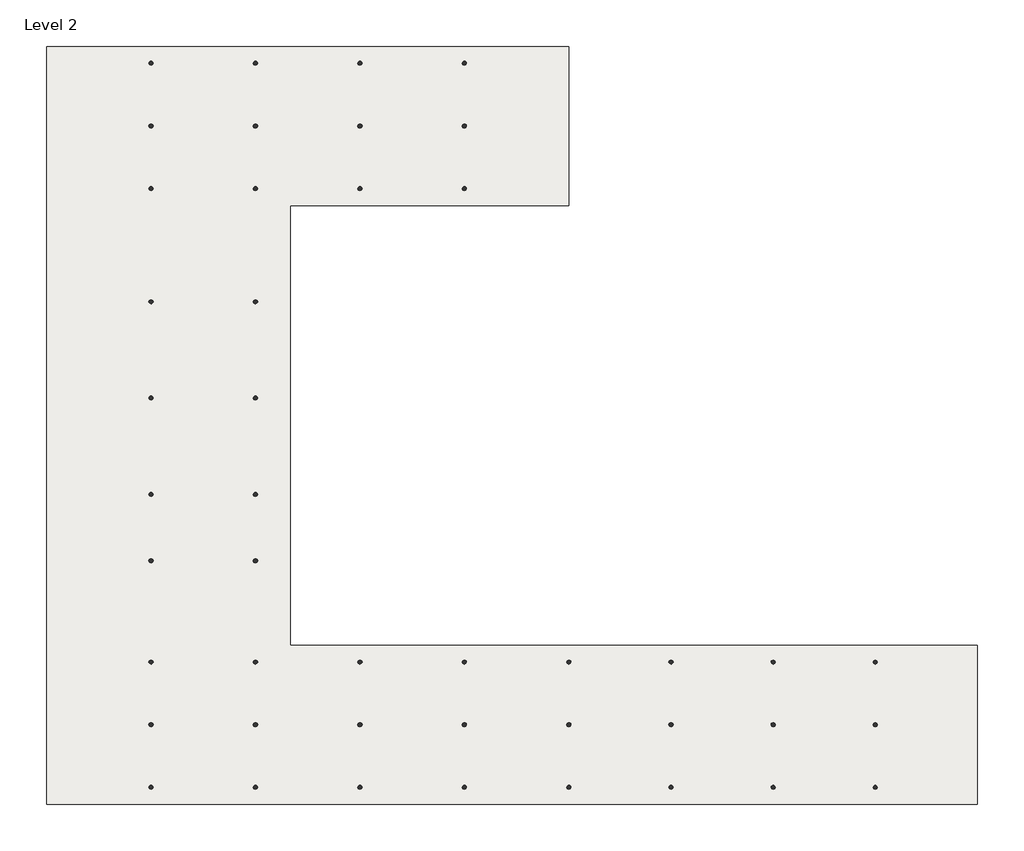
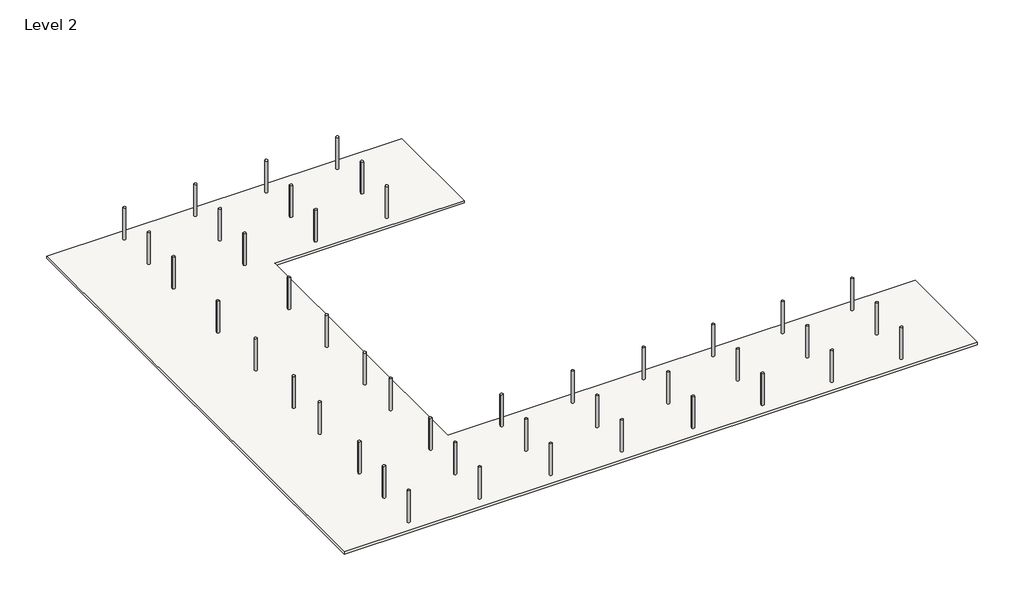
# One storey: 44 columns, 1 slab.
"""IFC4 building model written with IfcOpenShell, lengths in millimetres."""

from ifc_helpers import new_model, si_unit, frame, origin, place, context, project, spatial, polyline, outline, extrude, transform, mapped, element, save
from components import m_concrete_round_column_300mm_86e73f63

model = new_model("IFC4")

# Units and contexts
model_context = context("Model", 3, world=origin())
ifc_project = project(units=[si_unit("LENGTHUNIT", "METRE", prefix="MILLI")], contexts=[model_context])

# Site, building, storey
site = spatial("IfcSite", under=ifc_project)
building = spatial("IfcBuilding", under=site)
storey = spatial("IfcBuildingStorey", under=building, Name="Level 2", Elevation=4000.0)

# Columns
placement = place(None, origin())
m_concrete_round_column_300mm_shape = m_concrete_round_column_300mm_86e73f63(model_context)
element("IfcColumn", 1, ObjectType="M_Concrete-Round-Column : 300mm", at=placement, inside=storey, context=model_context, shape_type="MappedRepresentation", body=[
    mapped(m_concrete_round_column_300mm_shape, transform((-2539.0909489, 25116.7095931, 0.0), x_axis=(-1.0, 0.0, 0.0), y_axis=(0.0, -1.0, 0.0), z_axis=(0.0, 0.0, 1.0))),
])
element("IfcColumn", 2, ObjectType="M_Concrete-Round-Column : 300mm", at=placement, inside=storey, context=model_context, shape_type="MappedRepresentation", body=[
    mapped(m_concrete_round_column_300mm_shape, transform((-2539.0909489, 12506.7392059, 0.0), x_axis=(-1.0, 0.0, 0.0), y_axis=(0.0, -1.0, 0.0), z_axis=(0.0, 0.0, 1.0))),
])
element("IfcColumn", 3, ObjectType="M_Concrete-Round-Column : 300mm", at=placement, inside=storey, context=model_context, shape_type="MappedRepresentation", body=[
    mapped(m_concrete_round_column_300mm_shape, transform((-2539.0909489, 5598.6392059, 0.0), x_axis=(-1.0, 0.0, 0.0), y_axis=(0.0, -1.0, 0.0), z_axis=(0.0, 0.0, 1.0))),
])
element("IfcColumn", 4, ObjectType="M_Concrete-Round-Column : 300mm", at=placement, inside=storey, context=model_context, shape_type="MappedRepresentation", body=[
    mapped(m_concrete_round_column_300mm_shape, transform((-2539.0909489, -1309.4607941, 0.0), x_axis=(-1.0, 0.0, 0.0), y_axis=(0.0, -1.0, 0.0), z_axis=(0.0, 0.0, 1.0))),
])
element("IfcColumn", 5, ObjectType="M_Concrete-Round-Column : 300mm", at=placement, inside=storey, context=model_context, shape_type="MappedRepresentation", body=[
    mapped(m_concrete_round_column_300mm_shape, transform((-2539.0909489, -6063.8611817, 0.0), x_axis=(-1.0, 0.0, 0.0), y_axis=(0.0, -1.0, 0.0), z_axis=(0.0, 0.0, 1.0))),
])
element("IfcColumn", 6, ObjectType="M_Concrete-Round-Column : 300mm", at=placement, inside=storey, context=model_context, shape_type="MappedRepresentation", body=[
    mapped(m_concrete_round_column_300mm_shape, transform((-2539.0909489, -17821.5310875, 0.0), x_axis=(-1.0, 0.0, 0.0), y_axis=(0.0, -1.0, 0.0), z_axis=(0.0, 0.0, 1.0))),
])
element("IfcColumn", 7, ObjectType="M_Concrete-Round-Column : 300mm", at=placement, inside=storey, context=model_context, shape_type="MappedRepresentation", body=[
    mapped(m_concrete_round_column_300mm_shape, transform((-2539.0909489, 29618.5799804, 0.0), x_axis=(-1.0, 0.0, 0.0), y_axis=(0.0, -1.0, 0.0), z_axis=(0.0, 0.0, 1.0))),
])
element("IfcColumn", 8, ObjectType="M_Concrete-Round-Column : 300mm", at=placement, inside=storey, context=model_context, shape_type="MappedRepresentation", body=[
    mapped(m_concrete_round_column_300mm_shape, transform((-2539.0909489, 20614.8392059, 0.0), x_axis=(-1.0, 0.0, 0.0), y_axis=(0.0, -1.0, 0.0), z_axis=(0.0, 0.0, 1.0))),
])
element("IfcColumn", 9, ObjectType="M_Concrete-Round-Column : 300mm", at=placement, inside=storey, context=model_context, shape_type="MappedRepresentation", body=[
    mapped(m_concrete_round_column_300mm_shape, transform((-2539.0909489, -13332.3615692, 0.0), x_axis=(-1.0, 0.0, 0.0), y_axis=(0.0, -1.0, 0.0), z_axis=(0.0, 0.0, 1.0))),
])
element("IfcColumn", 10, ObjectType="M_Concrete-Round-Column : 300mm", at=placement, inside=storey, context=model_context, shape_type="MappedRepresentation", body=[
    mapped(m_concrete_round_column_300mm_shape, transform((-2539.0909489, -22310.7006057, 0.0), x_axis=(-1.0, 0.0, 0.0), y_axis=(0.0, -1.0, 0.0), z_axis=(0.0, 0.0, 1.0))),
])
element("IfcColumn", 11, ObjectType="M_Concrete-Round-Column : 300mm", at=placement, inside=storey, context=model_context, shape_type="MappedRepresentation", body=[
    mapped(m_concrete_round_column_300mm_shape, transform((4948.6567657, 25116.7095931, 0.0), x_axis=(-1.0, 0.0, 0.0), y_axis=(0.0, -1.0, 0.0), z_axis=(0.0, 0.0, 1.0))),
])
element("IfcColumn", 12, ObjectType="M_Concrete-Round-Column : 300mm", at=placement, inside=storey, context=model_context, shape_type="MappedRepresentation", body=[
    mapped(m_concrete_round_column_300mm_shape, transform((4948.6567657, 12506.7392059, 0.0), x_axis=(-1.0, 0.0, 0.0), y_axis=(0.0, -1.0, 0.0), z_axis=(0.0, 0.0, 1.0))),
])
element("IfcColumn", 13, ObjectType="M_Concrete-Round-Column : 300mm", at=placement, inside=storey, context=model_context, shape_type="MappedRepresentation", body=[
    mapped(m_concrete_round_column_300mm_shape, transform((4948.6567657, 5598.6392059, 0.0), x_axis=(-1.0, 0.0, 0.0), y_axis=(0.0, -1.0, 0.0), z_axis=(0.0, 0.0, 1.0))),
])
element("IfcColumn", 14, ObjectType="M_Concrete-Round-Column : 300mm", at=placement, inside=storey, context=model_context, shape_type="MappedRepresentation", body=[
    mapped(m_concrete_round_column_300mm_shape, transform((4948.6567657, -1309.4607941, 0.0), x_axis=(-1.0, 0.0, 0.0), y_axis=(0.0, -1.0, 0.0), z_axis=(0.0, 0.0, 1.0))),
])
element("IfcColumn", 15, ObjectType="M_Concrete-Round-Column : 300mm", at=placement, inside=storey, context=model_context, shape_type="MappedRepresentation", body=[
    mapped(m_concrete_round_column_300mm_shape, transform((4948.6567657, -6063.8611817, 0.0), x_axis=(-1.0, 0.0, 0.0), y_axis=(0.0, -1.0, 0.0), z_axis=(0.0, 0.0, 1.0))),
])
element("IfcColumn", 16, ObjectType="M_Concrete-Round-Column : 300mm", at=placement, inside=storey, context=model_context, shape_type="MappedRepresentation", body=[
    mapped(m_concrete_round_column_300mm_shape, transform((4948.6567657, -17821.5310875, 0.0), x_axis=(-1.0, 0.0, 0.0), y_axis=(0.0, -1.0, 0.0), z_axis=(0.0, 0.0, 1.0))),
])
element("IfcColumn", 17, ObjectType="M_Concrete-Round-Column : 300mm", at=placement, inside=storey, context=model_context, shape_type="MappedRepresentation", body=[
    mapped(m_concrete_round_column_300mm_shape, transform((4948.6567657, 29618.5799804, 0.0), x_axis=(-1.0, 0.0, 0.0), y_axis=(0.0, -1.0, 0.0), z_axis=(0.0, 0.0, 1.0))),
])
element("IfcColumn", 18, ObjectType="M_Concrete-Round-Column : 300mm", at=placement, inside=storey, context=model_context, shape_type="MappedRepresentation", body=[
    mapped(m_concrete_round_column_300mm_shape, transform((4948.6567657, 20614.8392059, 0.0), x_axis=(-1.0, 0.0, 0.0), y_axis=(0.0, -1.0, 0.0), z_axis=(0.0, 0.0, 1.0))),
])
element("IfcColumn", 19, ObjectType="M_Concrete-Round-Column : 300mm", at=placement, inside=storey, context=model_context, shape_type="MappedRepresentation", body=[
    mapped(m_concrete_round_column_300mm_shape, transform((4948.6567657, -13332.3615692, 0.0), x_axis=(-1.0, 0.0, 0.0), y_axis=(0.0, -1.0, 0.0), z_axis=(0.0, 0.0, 1.0))),
])
element("IfcColumn", 20, ObjectType="M_Concrete-Round-Column : 300mm", at=placement, inside=storey, context=model_context, shape_type="MappedRepresentation", body=[
    mapped(m_concrete_round_column_300mm_shape, transform((4948.6567657, -22310.7006057, 0.0), x_axis=(-1.0, 0.0, 0.0), y_axis=(0.0, -1.0, 0.0), z_axis=(0.0, 0.0, 1.0))),
])
element("IfcColumn", 21, ObjectType="M_Concrete-Round-Column : 300mm", at=placement, inside=storey, context=model_context, shape_type="MappedRepresentation", body=[
    mapped(m_concrete_round_column_300mm_shape, transform((12436.4044804, 25116.7095931, 0.0), x_axis=(-1.0, 0.0, 0.0), y_axis=(0.0, -1.0, 0.0), z_axis=(0.0, 0.0, 1.0))),
])
element("IfcColumn", 22, ObjectType="M_Concrete-Round-Column : 300mm", at=placement, inside=storey, context=model_context, shape_type="MappedRepresentation", body=[
    mapped(m_concrete_round_column_300mm_shape, transform((12436.4044804, -17821.5310875, 0.0), x_axis=(-1.0, 0.0, 0.0), y_axis=(0.0, -1.0, 0.0), z_axis=(0.0, 0.0, 1.0))),
])
element("IfcColumn", 23, ObjectType="M_Concrete-Round-Column : 300mm", at=placement, inside=storey, context=model_context, shape_type="MappedRepresentation", body=[
    mapped(m_concrete_round_column_300mm_shape, transform((12436.4044804, 29618.5799804, 0.0), x_axis=(-1.0, 0.0, 0.0), y_axis=(0.0, -1.0, 0.0), z_axis=(0.0, 0.0, 1.0))),
])
element("IfcColumn", 24, ObjectType="M_Concrete-Round-Column : 300mm", at=placement, inside=storey, context=model_context, shape_type="MappedRepresentation", body=[
    mapped(m_concrete_round_column_300mm_shape, transform((12436.4044804, 20614.8392059, 0.0), x_axis=(-1.0, 0.0, 0.0), y_axis=(0.0, -1.0, 0.0), z_axis=(0.0, 0.0, 1.0))),
])
element("IfcColumn", 25, ObjectType="M_Concrete-Round-Column : 300mm", at=placement, inside=storey, context=model_context, shape_type="MappedRepresentation", body=[
    mapped(m_concrete_round_column_300mm_shape, transform((12436.4044804, -13332.3615692, 0.0), x_axis=(-1.0, 0.0, 0.0), y_axis=(0.0, -1.0, 0.0), z_axis=(0.0, 0.0, 1.0))),
])
element("IfcColumn", 26, ObjectType="M_Concrete-Round-Column : 300mm", at=placement, inside=storey, context=model_context, shape_type="MappedRepresentation", body=[
    mapped(m_concrete_round_column_300mm_shape, transform((12436.4044804, -22310.7006057, 0.0), x_axis=(-1.0, 0.0, 0.0), y_axis=(0.0, -1.0, 0.0), z_axis=(0.0, 0.0, 1.0))),
])
element("IfcColumn", 27, ObjectType="M_Concrete-Round-Column : 300mm", at=placement, inside=storey, context=model_context, shape_type="MappedRepresentation", body=[
    mapped(m_concrete_round_column_300mm_shape, transform((19924.152195, 25116.7095931, 0.0), x_axis=(-1.0, 0.0, 0.0), y_axis=(0.0, -1.0, 0.0), z_axis=(0.0, 0.0, 1.0))),
])
element("IfcColumn", 28, ObjectType="M_Concrete-Round-Column : 300mm", at=placement, inside=storey, context=model_context, shape_type="MappedRepresentation", body=[
    mapped(m_concrete_round_column_300mm_shape, transform((19924.152195, -17821.5310875, 0.0), x_axis=(-1.0, 0.0, 0.0), y_axis=(0.0, -1.0, 0.0), z_axis=(0.0, 0.0, 1.0))),
])
element("IfcColumn", 29, ObjectType="M_Concrete-Round-Column : 300mm", at=placement, inside=storey, context=model_context, shape_type="MappedRepresentation", body=[
    mapped(m_concrete_round_column_300mm_shape, transform((19924.152195, 29618.5799804, 0.0), x_axis=(-1.0, 0.0, 0.0), y_axis=(0.0, -1.0, 0.0), z_axis=(0.0, 0.0, 1.0))),
])
element("IfcColumn", 30, ObjectType="M_Concrete-Round-Column : 300mm", at=placement, inside=storey, context=model_context, shape_type="MappedRepresentation", body=[
    mapped(m_concrete_round_column_300mm_shape, transform((19924.152195, 20614.8392059, 0.0), x_axis=(-1.0, 0.0, 0.0), y_axis=(0.0, -1.0, 0.0), z_axis=(0.0, 0.0, 1.0))),
])
element("IfcColumn", 31, ObjectType="M_Concrete-Round-Column : 300mm", at=placement, inside=storey, context=model_context, shape_type="MappedRepresentation", body=[
    mapped(m_concrete_round_column_300mm_shape, transform((19924.152195, -13332.3615692, 0.0), x_axis=(-1.0, 0.0, 0.0), y_axis=(0.0, -1.0, 0.0), z_axis=(0.0, 0.0, 1.0))),
])
element("IfcColumn", 32, ObjectType="M_Concrete-Round-Column : 300mm", at=placement, inside=storey, context=model_context, shape_type="MappedRepresentation", body=[
    mapped(m_concrete_round_column_300mm_shape, transform((19924.152195, -22310.7006057, 0.0), x_axis=(-1.0, 0.0, 0.0), y_axis=(0.0, -1.0, 0.0), z_axis=(0.0, 0.0, 1.0))),
])
element("IfcColumn", 33, ObjectType="M_Concrete-Round-Column : 300mm", at=placement, inside=storey, context=model_context, shape_type="MappedRepresentation", body=[
    mapped(m_concrete_round_column_300mm_shape, transform((27411.8999097, -17821.5310875, 0.0), x_axis=(-1.0, 0.0, 0.0), y_axis=(0.0, -1.0, 0.0), z_axis=(0.0, 0.0, 1.0))),
])
element("IfcColumn", 34, ObjectType="M_Concrete-Round-Column : 300mm", at=placement, inside=storey, context=model_context, shape_type="MappedRepresentation", body=[
    mapped(m_concrete_round_column_300mm_shape, transform((27411.8999097, -13332.3615692, 0.0), x_axis=(-1.0, 0.0, 0.0), y_axis=(0.0, -1.0, 0.0), z_axis=(0.0, 0.0, 1.0))),
])
element("IfcColumn", 35, ObjectType="M_Concrete-Round-Column : 300mm", at=placement, inside=storey, context=model_context, shape_type="MappedRepresentation", body=[
    mapped(m_concrete_round_column_300mm_shape, transform((27411.8999097, -22310.7006057, 0.0), x_axis=(-1.0, 0.0, 0.0), y_axis=(0.0, -1.0, 0.0), z_axis=(0.0, 0.0, 1.0))),
])
element("IfcColumn", 36, ObjectType="M_Concrete-Round-Column : 300mm", at=placement, inside=storey, context=model_context, shape_type="MappedRepresentation", body=[
    mapped(m_concrete_round_column_300mm_shape, transform((34733.7042668, -17821.5310875, 0.0), x_axis=(-1.0, 0.0, 0.0), y_axis=(0.0, -1.0, 0.0), z_axis=(0.0, 0.0, 1.0))),
])
element("IfcColumn", 37, ObjectType="M_Concrete-Round-Column : 300mm", at=placement, inside=storey, context=model_context, shape_type="MappedRepresentation", body=[
    mapped(m_concrete_round_column_300mm_shape, transform((34733.7042668, -13332.3615692, 0.0), x_axis=(-1.0, 0.0, 0.0), y_axis=(0.0, -1.0, 0.0), z_axis=(0.0, 0.0, 1.0))),
])
element("IfcColumn", 38, ObjectType="M_Concrete-Round-Column : 300mm", at=placement, inside=storey, context=model_context, shape_type="MappedRepresentation", body=[
    mapped(m_concrete_round_column_300mm_shape, transform((34733.7042668, -22310.7006057, 0.0), x_axis=(-1.0, 0.0, 0.0), y_axis=(0.0, -1.0, 0.0), z_axis=(0.0, 0.0, 1.0))),
])
element("IfcColumn", 39, ObjectType="M_Concrete-Round-Column : 300mm", at=placement, inside=storey, context=model_context, shape_type="MappedRepresentation", body=[
    mapped(m_concrete_round_column_300mm_shape, transform((42055.5086239, -17821.5310875, 0.0), x_axis=(-1.0, 0.0, 0.0), y_axis=(0.0, -1.0, 0.0), z_axis=(0.0, 0.0, 1.0))),
])
element("IfcColumn", 40, ObjectType="M_Concrete-Round-Column : 300mm", at=placement, inside=storey, context=model_context, shape_type="MappedRepresentation", body=[
    mapped(m_concrete_round_column_300mm_shape, transform((42055.5086239, -13332.3615692, 0.0), x_axis=(-1.0, 0.0, 0.0), y_axis=(0.0, -1.0, 0.0), z_axis=(0.0, 0.0, 1.0))),
])
element("IfcColumn", 41, ObjectType="M_Concrete-Round-Column : 300mm", at=placement, inside=storey, context=model_context, shape_type="MappedRepresentation", body=[
    mapped(m_concrete_round_column_300mm_shape, transform((42055.5086239, -22310.7006057, 0.0), x_axis=(-1.0, 0.0, 0.0), y_axis=(0.0, -1.0, 0.0), z_axis=(0.0, 0.0, 1.0))),
])
element("IfcColumn", 42, ObjectType="M_Concrete-Round-Column : 300mm", at=placement, inside=storey, context=model_context, shape_type="MappedRepresentation", body=[
    mapped(m_concrete_round_column_300mm_shape, transform((49377.3129811, -17821.5310875, 0.0), x_axis=(-1.0, 0.0, 0.0), y_axis=(0.0, -1.0, 0.0), z_axis=(0.0, 0.0, 1.0))),
])
element("IfcColumn", 43, ObjectType="M_Concrete-Round-Column : 300mm", at=placement, inside=storey, context=model_context, shape_type="MappedRepresentation", body=[
    mapped(m_concrete_round_column_300mm_shape, transform((49377.3129811, -13332.3615692, 0.0), x_axis=(-1.0, 0.0, 0.0), y_axis=(0.0, -1.0, 0.0), z_axis=(0.0, 0.0, 1.0))),
])
element("IfcColumn", 44, ObjectType="M_Concrete-Round-Column : 300mm", at=placement, inside=storey, context=model_context, shape_type="MappedRepresentation", body=[
    mapped(m_concrete_round_column_300mm_shape, transform((49377.3129811, -22310.7006057, 0.0), x_axis=(-1.0, 0.0, 0.0), y_axis=(0.0, -1.0, 0.0), z_axis=(0.0, 0.0, 1.0))),
])

# Slab
element("IfcSlab", 45, ObjectType="250mm Concrete", at=placement, inside=storey, context=model_context, shape_type="SweptSolid", body=[
    extrude(outline(polyline([(27411.8999097, 30818.5799804), (27411.8999097, 19414.8392059), (7447.5010724, 19414.8392059), (7447.5010724, -12132.3615692), (56699.1173382, -12132.3615692), (56699.1173382, -23510.7006057), (-10026.8386635, -23510.7006057), (-10026.8386635, 30818.5799804), (27411.8999097, 30818.5799804)])), frame((0.0, 0.0, 3750.0), z_axis=(0.0, 0.0, 1.0), x_axis=(1.0, 0.0, 0.0)), (0.0, 0.0, 1.0), 250.0),
])

save(model, "model.ifc")
